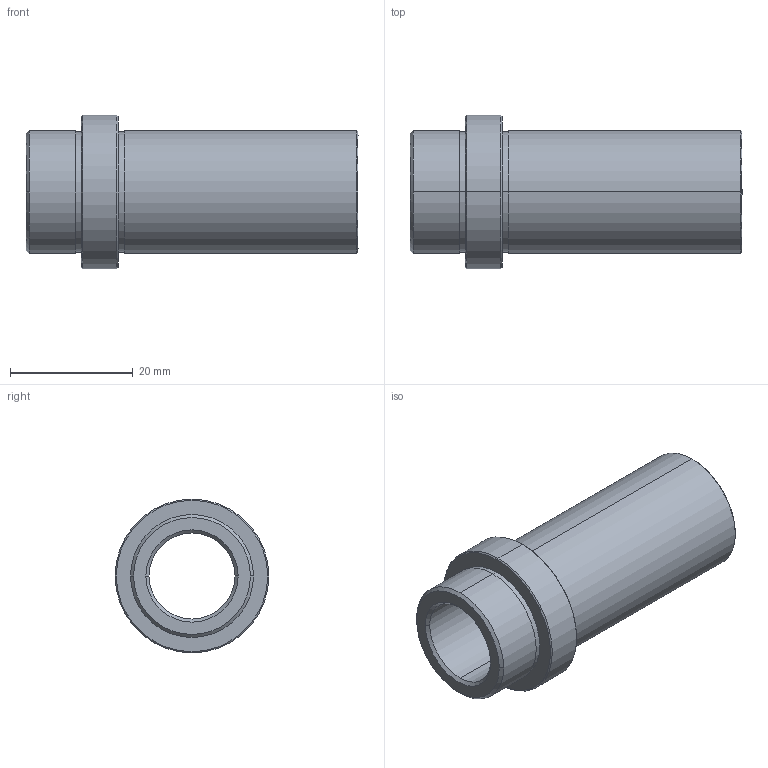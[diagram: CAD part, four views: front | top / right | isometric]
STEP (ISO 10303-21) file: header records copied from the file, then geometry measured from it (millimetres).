
FILE_DESCRIPTION (( 'STEP AP203' ), '1' );
FILE_NAME ('017 Bague de Guidage.STEP', '2021-10-27T18:23:45', ( '' ), ( '' ), 'SwSTEP 2.0', 'SolidWorks 2019', '' );
FILE_SCHEMA (( 'CONFIG_CONTROL_DESIGN' ));
Length unit declared in the file: millimetre
Products named in the file (1): 017 Bague de Guidage
Bounding box: 54 x 25 x 25 mm (x, y, z)
Volume: 9620.7 mm3; surface area: 6486.8 mm2
Topology: 1 solids, 1 shells, 30 faces, 70 edges, 46 vertices
Faces by surface type: bspline 12, cylinder 12, plane 6
Entity records: 1019 total; most frequent: CARTESIAN_POINT 247, DIRECTION 156, ORIENTED_EDGE 140, EDGE_CURVE 70, AXIS2_PLACEMENT_3D 67, CIRCLE 48, VERTEX_POINT 46, EDGE_LOOP 36
